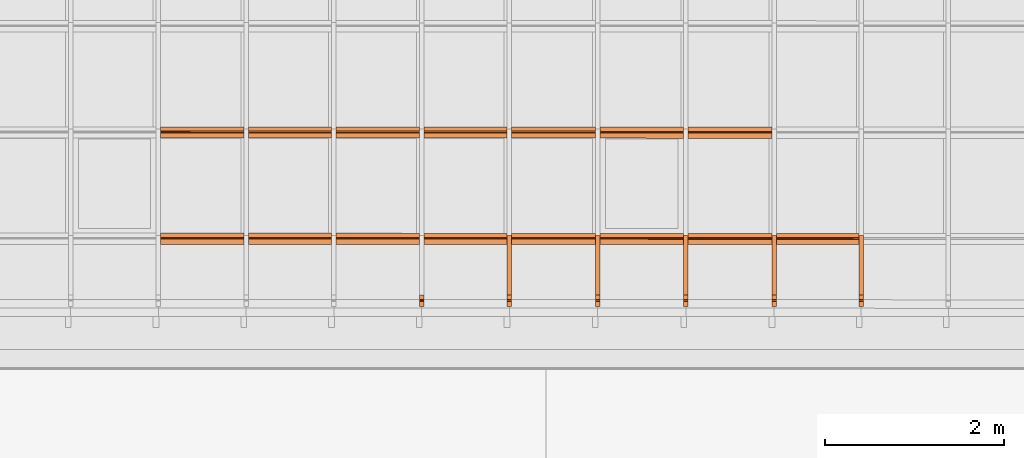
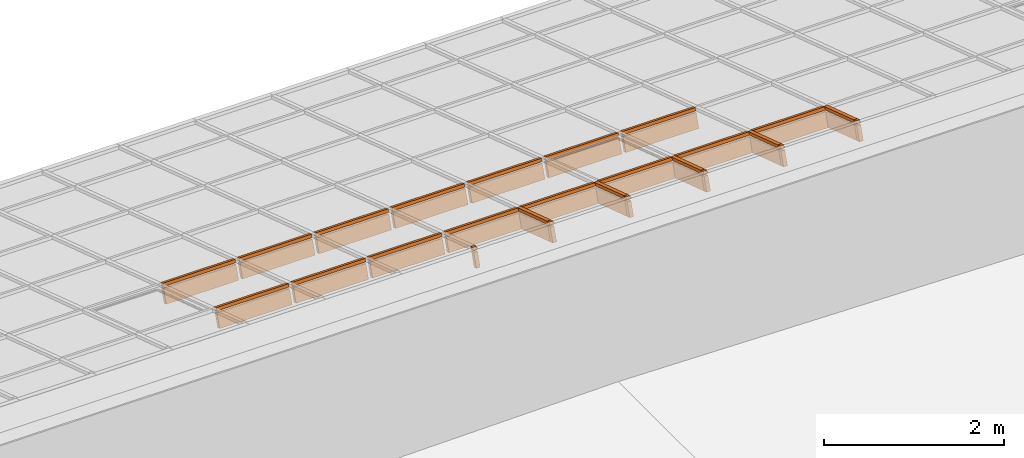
# One storey, part 43 of 47: 26 proxies, 1 element without a shape of its own.
"""IFC2X3 building model written with IfcOpenShell, lengths in millimetres."""

from ifc_helpers import new_model, entity, si_unit, converted_unit, derived_unit, money_unit, direction, frame, origin_with_axes, place, context, subcontext, project, spatial, polyline, outline, extrude, material, material_list, type_object, element, aggregate, save


model = new_model("IFC2X3")

# Units and contexts
model_context = context("Model", 3, precision=1e-05, world=origin_with_axes(), true_north=direction((0.0, 1.0)))
body_context = subcontext(model_context, "Body", "Model", "MODEL_VIEW")
ifc_project = project(units=[si_unit("LENGTHUNIT", "METRE", prefix="MILLI"), si_unit("AREAUNIT", "SQUARE_METRE"), si_unit("VOLUMEUNIT", "CUBIC_METRE"), converted_unit("PLANEANGLEUNIT", "DEGREE", entity("IfcPlaneAngleMeasure", 0.0174532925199), si_unit("PLANEANGLEUNIT", "RADIAN"), dimensions=[0, 0, 0, 0, 0, 0, 0]), si_unit("SOLIDANGLEUNIT", "STERADIAN"), money_unit("EUR"), converted_unit("TIMEUNIT", "Year", entity("IfcTimeMeasure", 31556926.0), si_unit("TIMEUNIT", "SECOND"), dimensions=[0, 0, 1, 0, 0, 0, 0]), si_unit("MASSUNIT", "GRAM", prefix="KILO"), si_unit("THERMODYNAMICTEMPERATUREUNIT", "DEGREE_CELSIUS"), si_unit("LUMINOUSINTENSITYUNIT", "LUMEN"), si_unit("ENERGYUNIT", "JOULE", prefix="MEGA"), derived_unit("THERMALCONDUCTANCEUNIT", [(si_unit("POWERUNIT", "WATT"), 1), (si_unit("LENGTHUNIT", "METRE"), -1), (si_unit("THERMODYNAMICTEMPERATUREUNIT", "KELVIN"), -1)]), derived_unit("SPECIFICHEATCAPACITYUNIT", [(si_unit("ENERGYUNIT", "JOULE"), 1), (si_unit("MASSUNIT", "GRAM", prefix="KILO"), -1), (si_unit("THERMODYNAMICTEMPERATUREUNIT", "KELVIN"), -1)]), derived_unit("MASSDENSITYUNIT", [(si_unit("MASSUNIT", "GRAM", prefix="KILO"), 1), (si_unit("VOLUMEUNIT", "CUBIC_METRE"), -1)])], contexts=[model_context])

# Site, building, storey
site_placement = place(None, origin_with_axes())
site = spatial("IfcSite", under=ifc_project, at=site_placement, Name="Site", CompositionType="ELEMENT")
building_placement = place(site_placement, origin_with_axes())
building = spatial("IfcBuilding", under=site, at=building_placement, Name="Building", CompositionType="ELEMENT")
storey_placement = place(building_placement, frame((0.0, 0.0, 6000.0), z_axis=(0.0, 0.0, 1.0), x_axis=(1.0, 0.0, 0.0)))
storey = spatial("IfcBuildingStorey", under=building, at=storey_placement, Name="KATUSEPLAAN", CompositionType="ELEMENT", Elevation=6000.0)

# Curtain wall, proxies
curtain_wall_type = type_object("IfcCurtainWallType", Name="KK-2", PredefinedType="NOTDEFINED")
curtain_wall_placement = place(storey_placement, frame((71638.1505463, 41358.6055567, 722.550081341), z_axis=(0.0, 0.0, 1.0), x_axis=(1.0, 0.0, 0.0)))
curtain_wall = element("IfcCurtainWall", 1, at=curtain_wall_placement, inside=storey, type_object=curtain_wall_type, Name="Talveaja klaaskatus")
ifc_material = material(Name="Alumiinium (1)")
ifc_material_list = material_list([ifc_material, ifc_material])
building_element_proxy_type_1 = type_object("IfcBuildingElementProxyType", Name="Frame-Trs-755", PredefinedType="NOTDEFINED")
proxy_1_placement = place(curtain_wall_placement, frame((489.999792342, 1664.05961209, 1432.55474361), z_axis=(0.999999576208, -0.000287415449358, -0.000874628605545), x_axis=(0.0, -0.950019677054, 0.312190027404)))
proxy_1 = element("IfcBuildingElementProxy", 2, at=proxy_1_placement, type_object=building_element_proxy_type_1, material=ifc_material_list, Name="Alumiinium (1);  Objekti nimi: Frame 22", context=body_context, shape_type="SweptSolid", body=[
    extrude(outline(polyline([(26.8723924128, 1.69544270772), (86.1885203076, 182.199173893), (38.6875384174, 197.808681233), (-20.6285894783, 17.3049500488), (26.8723924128, 1.69544270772)])), frame((0.0, 0.0, 25.0000000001), z_axis=(0.0, 0.0, 1.0), x_axis=(0.950019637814, 0.312190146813, 0.0)), (0.0, 0.0, 1.0), 930.0),
    extrude(outline(polyline([(-26.8723924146, -1.69544270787), (-39.3599982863, -39.6962282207), (8.1409836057, -55.305735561), (20.6285894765, -17.3049500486), (-26.8723924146, -1.69544270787)])), frame((0.0, 0.0, 24.9999999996), z_axis=(0.0, 0.0, 1.0), x_axis=(0.950019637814, 0.312190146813, 0.0)), (0.0, 0.0, 1.0), 930.000000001),
])
building_element_proxy_type_2 = type_object("IfcBuildingElementProxyType", Name="Frame-Trs-757", PredefinedType="NOTDEFINED")
proxy_2_placement = place(curtain_wall_placement, frame((2449.99896171, 1663.49627782, 1430.84047155), z_axis=(0.999999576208, -0.000287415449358, -0.000874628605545), x_axis=(0.0, -0.950019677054, 0.312190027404)))
proxy_2 = element("IfcBuildingElementProxy", 3, at=proxy_2_placement, type_object=building_element_proxy_type_2, material=ifc_material_list, Name="Alumiinium (1);  Objekti nimi: Frame 22", context=body_context, shape_type="SweptSolid", body=[
    extrude(outline(polyline([(26.8723924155, 1.69544270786), (86.1885203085, 182.199173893), (38.6875384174, 197.808681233), (-20.6285894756, 17.3049500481), (26.8723924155, 1.69544270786)])), frame((0.0, 0.0, 25.0), z_axis=(0.0, 0.0, 1.0), x_axis=(0.950019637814, 0.312190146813, 0.0)), (0.0, 0.0, 1.0), 930.0),
    extrude(outline(polyline([(-26.8723924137, -1.69544270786), (-39.3599982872, -39.6962282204), (8.14098360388, -55.3057355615), (20.6285894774, -17.3049500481), (-26.8723924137, -1.69544270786)])), frame((0.0, 0.0, 24.9999999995), z_axis=(0.0, 0.0, 1.0), x_axis=(0.950019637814, 0.312190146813, 0.0)), (0.0, 0.0, 1.0), 930.000000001),
])
building_element_proxy_type_3 = type_object("IfcBuildingElementProxyType", Name="Frame-Trs-759", PredefinedType="NOTDEFINED")
proxy_3_placement = place(curtain_wall_placement, frame((4409.99813108, 1662.93294355, 1429.12619948), z_axis=(0.999999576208, -0.000287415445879, -0.000874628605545), x_axis=(0.0, -0.950019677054, 0.312190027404)))
proxy_3 = element("IfcBuildingElementProxy", 4, at=proxy_3_placement, type_object=building_element_proxy_type_3, material=ifc_material_list, Name="Alumiinium (1);  Objekti nimi: Frame 22", context=body_context, shape_type="SweptSolid", body=[
    extrude(outline(polyline([(26.8723924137, 1.695442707), (86.1885203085, 182.199173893), (38.6875384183, 197.808681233), (-20.6285894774, 17.3049500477), (26.8723924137, 1.695442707)])), frame((0.0, 0.0, 24.9999999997), z_axis=(0.0, 0.0, 1.0), x_axis=(0.950019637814, 0.312190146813, 0.0)), (0.0, 0.0, 1.0), 936.0),
    extrude(outline(polyline([(-26.8723924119, -1.69544270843), (-39.3599982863, -39.6962282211), (8.14098360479, -55.3057355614), (20.6285894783, -17.3049500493), (-26.8723924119, -1.69544270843)])), frame((0.0, 0.0, 24.9999999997), z_axis=(0.0, 0.0, 1.0), x_axis=(0.950019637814, 0.312190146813, 0.0)), (0.0, 0.0, 1.0), 936.0),
])
building_element_proxy_type_4 = type_object("IfcBuildingElementProxyType", Name="Frame-Trs-761", PredefinedType="NOTDEFINED")
proxy_4_placement = place(curtain_wall_placement, frame((6381.99729536, 1662.36616029, 1427.40143187), z_axis=(0.999999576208, -0.000287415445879, -0.000874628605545), x_axis=(0.0, -0.950019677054, 0.312190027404)))
proxy_4 = element("IfcBuildingElementProxy", 5, at=proxy_4_placement, type_object=building_element_proxy_type_4, material=ifc_material_list, Name="Alumiinium (1);  Objekti nimi: Frame 22", context=body_context, shape_type="SweptSolid", body=[
    extrude(outline(polyline([(26.8723924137, 1.69544270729), (86.1885203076, 182.199173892), (38.6875384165, 197.808681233), (-20.6285894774, 17.3049500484), (26.8723924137, 1.69544270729)])), frame((0.0, 0.0, 25.0), z_axis=(0.0, 0.0, 1.0), x_axis=(0.950019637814, 0.312190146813, 0.0)), (0.0, 0.0, 1.0), 936.0),
    extrude(outline(polyline([(-26.8723924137, -1.69544270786), (-39.3599982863, -39.6962282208), (8.14098360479, -55.3057355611), (20.6285894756, -17.3049500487), (-26.8723924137, -1.69544270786)])), frame((0.0, 0.0, 25.0000000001), z_axis=(0.0, 0.0, 1.0), x_axis=(0.950019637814, 0.312190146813, 0.0)), (0.0, 0.0, 1.0), 936.0),
])
building_element_proxy_type_5 = type_object("IfcBuildingElementProxyType", Name="Frame-Mll-881", PredefinedType="NOTDEFINED")
proxy_5_placement = place(curtain_wall_placement, frame((5395.99771322, 475.1249556, 1818.50134993), z_axis=(0.0, -0.950019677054, 0.312190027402), x_axis=(-0.999999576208, 0.000287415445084, 0.000874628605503)))
proxy_5 = element("IfcBuildingElementProxy", 6, at=proxy_5_placement, type_object=building_element_proxy_type_5, material=ifc_material_list, Name="Alumiinium (1);  Objekti nimi: Frame 22", context=body_context, shape_type="SweptSolid", body=[
    extrude(outline(polyline([(25.0091958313, 9.9769796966), (25.1841179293, 199.976899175), (-24.8158608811, 200.022931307), (-24.990782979, 10.0230118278), (25.0091958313, 9.9769796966)])), frame((0.0, 4.54747350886e-10, -9.09494701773e-10), z_axis=(0.0, 0.0, 1.0), x_axis=(0.999999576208, 0.000920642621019, 0.0)), (0.0, 0.0, 1.0), 700.000000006),
    extrude(outline(polyline([(-25.0091958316, -9.97697969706), (-25.0460215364, -49.9769627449), (24.9539572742, -50.0229948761), (24.990782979, -10.0230118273), (-25.0091958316, -9.97697969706)])), frame((0.0, 4.54747350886e-10, -9.09494701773e-10), z_axis=(0.0, 0.0, 1.0), x_axis=(0.999999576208, 0.000920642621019, 0.0)), (0.0, 0.0, 1.0), 700.000000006),
])
building_element_proxy_type_6 = type_object("IfcBuildingElementProxyType", Name="Frame-Trs-523", PredefinedType="NOTDEFINED")
proxy_6_placement = place(curtain_wall_placement, frame((489.999792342, 476.535015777, 1822.79227787), z_axis=(0.999999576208, -0.000287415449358, -0.000874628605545), x_axis=(0.0, -0.950019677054, 0.312190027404)))
proxy_6 = element("IfcBuildingElementProxy", 7, at=proxy_6_placement, type_object=building_element_proxy_type_6, material=ifc_material_list, Name="Alumiinium (1);  Objekti nimi: Frame 22", context=body_context, shape_type="SweptSolid", body=[
    extrude(outline(polyline([(26.8723924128, 1.69544270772), (86.1885203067, 182.199173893), (38.6875384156, 197.808681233), (-20.6285894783, 17.3049500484), (26.8723924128, 1.69544270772)])), frame((0.0, 0.0, 25.0000000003), z_axis=(0.0, 0.0, 1.0), x_axis=(0.950019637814, 0.312190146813, 0.0)), (0.0, 0.0, 1.0), 930.0),
    extrude(outline(polyline([(-26.8723924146, -1.69544270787), (-39.3599982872, -39.6962282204), (8.14098360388, -55.3057355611), (20.6285894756, -17.3049500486), (-26.8723924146, -1.69544270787)])), frame((0.0, 0.0, 24.9999999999), z_axis=(0.0, 0.0, 1.0), x_axis=(0.950019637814, 0.312190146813, 0.0)), (0.0, 0.0, 1.0), 930.000000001),
])
building_element_proxy_type_7 = type_object("IfcBuildingElementProxyType", Name="Frame-Trs-525", PredefinedType="NOTDEFINED")
proxy_7_placement = place(curtain_wall_placement, frame((2449.99896171, 475.971681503, 1821.0780058), z_axis=(0.999999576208, -0.000287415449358, -0.000874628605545), x_axis=(0.0, -0.950019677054, 0.312190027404)))
proxy_7 = element("IfcBuildingElementProxy", 8, at=proxy_7_placement, type_object=building_element_proxy_type_7, material=ifc_material_list, Name="Alumiinium (1);  Objekti nimi: Frame 22", context=body_context, shape_type="SweptSolid", body=[
    extrude(outline(polyline([(26.8723924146, 1.69544270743), (86.1885203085, 182.199173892), (38.6875384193, 197.808681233), (-20.6285894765, 17.3049500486), (26.8723924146, 1.69544270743)])), frame((9.09494701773e-10, 0.0, 24.9999999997), z_axis=(0.0, 0.0, 1.0), x_axis=(0.950019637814, 0.312190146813, 0.0)), (0.0, 0.0, 1.0), 930.0),
    extrude(outline(polyline([(-26.8723924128, -1.69544270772), (-39.3599982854, -39.696228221), (8.1409836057, -55.3057355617), (20.6285894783, -17.3049500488), (-26.8723924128, -1.69544270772)])), frame((9.09494701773e-10, 0.0, 24.9999999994), z_axis=(0.0, 0.0, 1.0), x_axis=(0.950019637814, 0.312190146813, 0.0)), (0.0, 0.0, 1.0), 930.000000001),
])
building_element_proxy_type_8 = type_object("IfcBuildingElementProxyType", Name="Frame-Trs-527", PredefinedType="NOTDEFINED")
proxy_8_placement = place(curtain_wall_placement, frame((4409.99813108, 475.40834723, 1819.36373374), z_axis=(0.999999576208, -0.000287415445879, -0.000874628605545), x_axis=(0.0, -0.950019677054, 0.312190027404)))
proxy_8 = element("IfcBuildingElementProxy", 9, at=proxy_8_placement, type_object=building_element_proxy_type_8, material=ifc_material_list, Name="Alumiinium (1);  Objekti nimi: Frame 22", context=body_context, shape_type="SweptSolid", body=[
    extrude(outline(polyline([(26.8723924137, 1.69544270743), (86.1885203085, 182.199173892), (38.6875384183, 197.808681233), (-20.6285894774, 17.3049500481), (26.8723924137, 1.69544270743)])), frame((0.0, 0.0, 24.9999999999), z_axis=(0.0, 0.0, 1.0), x_axis=(0.950019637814, 0.312190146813, 0.0)), (0.0, 0.0, 1.0), 936.0),
    extrude(outline(polyline([(-26.8723924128, -1.69544270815), (-39.3599982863, -39.6962282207), (8.14098360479, -55.3057355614), (20.6285894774, -17.3049500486), (-26.8723924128, -1.69544270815)])), frame((0.0, 0.0, 25.0), z_axis=(0.0, 0.0, 1.0), x_axis=(0.950019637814, 0.312190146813, 0.0)), (0.0, 0.0, 1.0), 936.0),
])
building_element_proxy_type_9 = type_object("IfcBuildingElementProxyType", Name="Frame-Trs-529", PredefinedType="NOTDEFINED")
proxy_9_placement = place(curtain_wall_placement, frame((6381.99729536, 474.841563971, 1817.63896613), z_axis=(0.999999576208, -0.000287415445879, -0.000874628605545), x_axis=(0.0, -0.950019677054, 0.312190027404)))
proxy_9 = element("IfcBuildingElementProxy", 10, at=proxy_9_placement, type_object=building_element_proxy_type_9, material=ifc_material_list, Name="Alumiinium (1);  Objekti nimi: Frame 22", context=body_context, shape_type="SweptSolid", body=[
    extrude(outline(polyline([(26.8723924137, 1.69544270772), (86.1885203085, 182.199173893), (38.6875384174, 197.808681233), (-20.6285894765, 17.3049500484), (26.8723924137, 1.69544270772)])), frame((9.09494701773e-10, 0.0, 25.0), z_axis=(0.0, 0.0, 1.0), x_axis=(0.950019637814, 0.312190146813, 0.0)), (0.0, 0.0, 1.0), 936.000000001),
    extrude(outline(polyline([(-26.8723924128, -1.69544270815), (-39.3599982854, -39.6962282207), (8.1409836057, -55.3057355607), (20.6285894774, -17.3049500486), (-26.8723924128, -1.69544270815)])), frame((9.09494701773e-10, 0.0, 25.0000000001), z_axis=(0.0, 0.0, 1.0), x_axis=(0.950019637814, 0.312190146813, 0.0)), (0.0, 0.0, 1.0), 936.000000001),
])
building_element_proxy_type_10 = type_object("IfcBuildingElementProxyType", Name="Frame-Mll-883", PredefinedType="NOTDEFINED")
proxy_10_placement = place(curtain_wall_placement, frame((7367.9968775, 474.558172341, 1816.77658232), z_axis=(0.0, -0.950019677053, 0.312190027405), x_axis=(-0.999999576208, 0.000287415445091, 0.000874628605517)))
proxy_10 = element("IfcBuildingElementProxy", 11, at=proxy_10_placement, type_object=building_element_proxy_type_10, material=ifc_material_list, Name="Alumiinium (1);  Objekti nimi: Frame 22", context=body_context, shape_type="SweptSolid", body=[
    extrude(outline(polyline([(25.0091958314, 9.9769796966), (25.1841179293, 199.976899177), (-24.8158608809, 200.022931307), (-24.990782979, 10.0230118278), (25.0091958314, 9.9769796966)])), frame((0.0, 0.0, -1.81898940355e-09), z_axis=(0.0, 0.0, 1.0), x_axis=(0.999999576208, 0.000920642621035, 0.0)), (0.0, 0.0, 1.0), 700.000000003),
    extrude(outline(polyline([(-25.0091958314, -9.9769796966), (-25.0460215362, -49.9769627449), (24.9539572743, -50.0229948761), (24.990782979, -10.0230118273), (-25.0091958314, -9.9769796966)])), frame((0.0, 0.0, -1.81898940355e-09), z_axis=(0.0, 0.0, 1.0), x_axis=(0.999999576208, 0.000920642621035, 0.0)), (0.0, 0.0, 1.0), 700.000000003),
])
building_element_proxy_type_11 = type_object("IfcBuildingElementProxyType", Name="Frame-Trs-756", PredefinedType="NOTDEFINED")
proxy_11_placement = place(curtain_wall_placement, frame((1469.99937703, 1663.77794495, 1431.69760758), z_axis=(0.999999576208, -0.000287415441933, -0.000874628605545), x_axis=(0.0, -0.950019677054, 0.312190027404)))
proxy_11 = element("IfcBuildingElementProxy", 12, at=proxy_11_placement, type_object=building_element_proxy_type_11, material=ifc_material_list, Name="Alumiinium (1);  Objekti nimi: Frame 22", context=body_context, shape_type="SweptSolid", body=[
    extrude(outline(polyline([(26.8723924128, 1.69544270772), (86.1885203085, 182.199173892), (38.6875384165, 197.808681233), (-20.6285894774, 17.3049500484), (26.8723924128, 1.69544270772)])), frame((0.0, 0.0, 24.9999999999), z_axis=(0.0, 0.0, 1.0), x_axis=(0.950019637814, 0.312190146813, 0.0)), (0.0, 0.0, 1.0), 930.0),
    extrude(outline(polyline([(-26.8723924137, -1.69544270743), (-39.3599982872, -39.6962282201), (8.14098360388, -55.3057355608), (20.6285894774, -17.3049500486), (-26.8723924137, -1.69544270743)])), frame((0.0, 0.0, 24.9999999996), z_axis=(0.0, 0.0, 1.0), x_axis=(0.950019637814, 0.312190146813, 0.0)), (0.0, 0.0, 1.0), 930.000000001),
])
building_element_proxy_type_12 = type_object("IfcBuildingElementProxyType", Name="Frame-Trs-758", PredefinedType="NOTDEFINED")
proxy_12_placement = place(curtain_wall_placement, frame((3429.9985464, 1663.21461068, 1429.98333551), z_axis=(0.999999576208, -0.000287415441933, -0.000874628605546), x_axis=(0.0, -0.950019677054, 0.312190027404)))
proxy_12 = element("IfcBuildingElementProxy", 13, at=proxy_12_placement, type_object=building_element_proxy_type_12, material=ifc_material_list, Name="Alumiinium (1);  Objekti nimi: Frame 22", context=body_context, shape_type="SweptSolid", body=[
    extrude(outline(polyline([(26.8723924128, 1.69544270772), (86.1885203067, 182.199173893), (38.6875384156, 197.808681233), (-20.6285894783, 17.3049500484), (26.8723924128, 1.69544270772)])), frame((9.09494701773e-10, 0.0, 25.0000000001), z_axis=(0.0, 0.0, 1.0), x_axis=(0.950019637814, 0.312190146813, 0.0)), (0.0, 0.0, 1.0), 930.0),
    extrude(outline(polyline([(-26.8723924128, -1.69544270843), (-39.3599982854, -39.6962282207), (8.1409836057, -55.3057355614), (20.6285894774, -17.3049500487), (-26.8723924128, -1.69544270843)])), frame((9.09494701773e-10, 0.0, 24.9999999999), z_axis=(0.0, 0.0, 1.0), x_axis=(0.950019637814, 0.312190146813, 0.0)), (0.0, 0.0, 1.0), 930.000000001),
])
building_element_proxy_type_13 = type_object("IfcBuildingElementProxyType", Name="Frame-Trs-760", PredefinedType="NOTDEFINED")
proxy_13_placement = place(curtain_wall_placement, frame((5395.99771322, 1662.64955192, 1428.26381568), z_axis=(0.999999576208, -0.000287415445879, -0.000874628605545), x_axis=(0.0, -0.950019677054, 0.312190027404)))
proxy_13 = element("IfcBuildingElementProxy", 14, at=proxy_13_placement, type_object=building_element_proxy_type_13, material=ifc_material_list, Name="Alumiinium (1);  Objekti nimi: Frame 22", context=body_context, shape_type="SweptSolid", body=[
    extrude(outline(polyline([(26.8723924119, 1.695442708), (86.1885203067, 182.199173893), (38.6875384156, 197.808681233), (-20.6285894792, 17.3049500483), (26.8723924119, 1.695442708)])), frame((0.0, 0.0, 24.9999999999), z_axis=(0.0, 0.0, 1.0), x_axis=(0.950019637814, 0.312190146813, 0.0)), (0.0, 0.0, 1.0), 936.0),
    extrude(outline(polyline([(-26.8723924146, -1.69544270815), (-39.3599982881, -39.6962282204), (8.14098360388, -55.3057355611), (20.6285894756, -17.3049500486), (-26.8723924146, -1.69544270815)])), frame((0.0, 0.0, 24.9999999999), z_axis=(0.0, 0.0, 1.0), x_axis=(0.950019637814, 0.312190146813, 0.0)), (0.0, 0.0, 1.0), 936.0),
])
building_element_proxy_type_14 = type_object("IfcBuildingElementProxyType", Name="Frame-Mll-884", PredefinedType="NOTDEFINED")
proxy_14_placement = place(curtain_wall_placement, frame((8340.99646516, 474.278517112, 1815.92556869), z_axis=(0.0, -0.950019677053, 0.312190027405), x_axis=(-0.999999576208, 0.000287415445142, 0.000874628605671)))
proxy_14 = element("IfcBuildingElementProxy", 15, at=proxy_14_placement, type_object=building_element_proxy_type_14, material=ifc_material_list, Name="Alumiinium (1);  Objekti nimi: Frame 22", context=body_context, shape_type="SweptSolid", body=[
    extrude(outline(polyline([(25.0091958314, 9.9769796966), (25.1841179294, 199.976899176), (-24.8158608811, 200.022931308), (-24.9907829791, 10.0230118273), (25.0091958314, 9.9769796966)])), frame((0.0, 0.0, 0.0), z_axis=(0.0, 0.0, 1.0), x_axis=(0.999999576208, 0.000920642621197, 0.0)), (0.0, 0.0, 1.0), 700.000000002),
    extrude(outline(polyline([(-25.0091958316, -9.9769796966), (-25.0460215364, -49.9769627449), (24.953957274, -50.0229948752), (24.9907829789, -10.0230118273), (-25.0091958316, -9.9769796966)])), frame((0.0, 0.0, -9.09494701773e-10), z_axis=(0.0, 0.0, 1.0), x_axis=(0.999999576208, 0.000920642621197, 0.0)), (0.0, 0.0, 1.0), 700.000000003),
])
building_element_proxy_type_15 = type_object("IfcBuildingElementProxyType", Name="Frame-Mll-880", PredefinedType="NOTDEFINED")
proxy_15_placement = place(curtain_wall_placement, frame((4409.99813108, 475.40834723, 1819.36373374), z_axis=(0.0, -0.950019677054, 0.312190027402), x_axis=(-0.999999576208, 0.000287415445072, 0.000874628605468)))
proxy_15 = element("IfcBuildingElementProxy", 16, at=proxy_15_placement, type_object=building_element_proxy_type_15, material=ifc_material_list, Name="Alumiinium (1);  Objekti nimi: Frame 22", context=body_context, shape_type="SweptSolid", body=[
    extrude(outline(polyline([(25.0091958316, 9.97697969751), (25.1841179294, 199.976899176), (-24.8158608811, 200.022931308), (-24.9907829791, 10.0230118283), (25.0091958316, 9.97697969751)])), frame((0.0, 4.54747350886e-10, -1.81898940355e-09), z_axis=(0.0, 0.0, 1.0), x_axis=(0.999999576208, 0.000920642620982, 0.0)), (0.0, 0.0, 1.0), 700.000000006),
    extrude(outline(polyline([(-25.0091958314, -9.97697969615), (-25.0460215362, -49.976962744), (24.9539572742, -50.0229948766), (24.9907829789, -10.0230118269), (-25.0091958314, -9.97697969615)])), frame((0.0, 4.54747350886e-10, -9.09494701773e-10), z_axis=(0.0, 0.0, 1.0), x_axis=(0.999999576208, 0.000920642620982, 0.0)), (0.0, 0.0, 1.0), 700.000000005),
])
building_element_proxy_type_16 = type_object("IfcBuildingElementProxyType", Name="Frame-Trs-524", PredefinedType="NOTDEFINED")
proxy_16_placement = place(curtain_wall_placement, frame((1469.99937703, 476.253348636, 1821.93514184), z_axis=(0.999999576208, -0.000287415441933, -0.000874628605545), x_axis=(0.0, -0.950019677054, 0.312190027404)))
proxy_16 = element("IfcBuildingElementProxy", 17, at=proxy_16_placement, type_object=building_element_proxy_type_16, material=ifc_material_list, Name="Alumiinium (1);  Objekti nimi: Frame 22", context=body_context, shape_type="SweptSolid", body=[
    extrude(outline(polyline([(26.8723924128, 1.69544270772), (86.1885203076, 182.199173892), (38.6875384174, 197.808681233), (-20.6285894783, 17.304950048), (26.8723924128, 1.69544270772)])), frame((9.09494701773e-10, 0.0, 25.0), z_axis=(0.0, 0.0, 1.0), x_axis=(0.950019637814, 0.312190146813, 0.0)), (0.0, 0.0, 1.0), 930.0),
    extrude(outline(polyline([(-26.8723924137, -1.69544270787), (-39.3599982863, -39.6962282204), (8.14098360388, -55.3057355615), (20.6285894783, -17.3049500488), (-26.8723924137, -1.69544270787)])), frame((9.09494701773e-10, 0.0, 24.9999999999), z_axis=(0.0, 0.0, 1.0), x_axis=(0.950019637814, 0.312190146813, 0.0)), (0.0, 0.0, 1.0), 930.0),
])
building_element_proxy_type_17 = type_object("IfcBuildingElementProxyType", Name="Frame-Trs-526", PredefinedType="NOTDEFINED")
proxy_17_placement = place(curtain_wall_placement, frame((3429.9985464, 475.690014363, 1820.22086977), z_axis=(0.999999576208, -0.000287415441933, -0.000874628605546), x_axis=(0.0, -0.950019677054, 0.312190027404)))
proxy_17 = element("IfcBuildingElementProxy", 18, at=proxy_17_placement, type_object=building_element_proxy_type_17, material=ifc_material_list, Name="Alumiinium (1);  Objekti nimi: Frame 22", context=body_context, shape_type="SweptSolid", body=[
    extrude(outline(polyline([(26.8723924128, 1.69544270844), (86.1885203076, 182.199173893), (38.6875384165, 197.808681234), (-20.6285894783, 17.3049500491), (26.8723924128, 1.69544270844)])), frame((-9.09494701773e-10, 0.0, 25.0000000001), z_axis=(0.0, 0.0, 1.0), x_axis=(0.950019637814, 0.312190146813, 0.0)), (0.0, 0.0, 1.0), 930.0),
    extrude(outline(polyline([(-26.8723924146, -1.69544270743), (-39.3599982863, -39.69622822), (8.14098360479, -55.3057355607), (20.6285894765, -17.3049500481), (-26.8723924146, -1.69544270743)])), frame((-9.09494701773e-10, 0.0, 25.0), z_axis=(0.0, 0.0, 1.0), x_axis=(0.950019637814, 0.312190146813, 0.0)), (0.0, 0.0, 1.0), 930.000000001),
])
building_element_proxy_type_18 = type_object("IfcBuildingElementProxyType", Name="Frame-Mll-004", PredefinedType="NOTDEFINED")
proxy_18_placement = place(curtain_wall_placement, frame((4409.99813108, -189.605426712, 2037.89675292), z_axis=(0.0, -0.950019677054, 0.312190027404), x_axis=(-0.999999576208, 0.000287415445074, 0.000874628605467)))
proxy_18 = element("IfcBuildingElementProxy", 19, at=proxy_18_placement, type_object=building_element_proxy_type_18, material=ifc_material_list, Name="Alumiinium (1);  Objekti nimi: Frame 22", context=body_context, shape_type="SweptSolid", body=[
    extrude(outline(polyline([(25.0091958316, 9.97697969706), (25.1841179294, 199.976899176), (-24.8158608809, 200.022931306), (-24.990782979, 10.0230118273), (25.0091958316, 9.97697969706)])), frame((0.0, -4.54747350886e-10, -9.09494701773e-10), z_axis=(0.0, 0.0, 1.0), x_axis=(0.999999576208, 0.000920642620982, 0.0)), (0.0, 0.0, 1.0), 55.2609778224),
    extrude(outline(polyline([(-25.0091958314, -9.97697969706), (-25.0460215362, -49.9769627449), (24.9539572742, -50.0229948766), (24.9907829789, -10.0230118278), (-25.0091958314, -9.97697969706)])), frame((0.0, -4.54747350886e-10, -9.09494701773e-10), z_axis=(0.0, 0.0, 1.0), x_axis=(0.999999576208, 0.000920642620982, 0.0)), (0.0, 0.0, 1.0), 55.2609778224),
])
building_element_proxy_type_19 = type_object("IfcBuildingElementProxyType", Name="Frame-Trs-528", PredefinedType="NOTDEFINED")
proxy_19_placement = place(curtain_wall_placement, frame((5395.99771322, 475.1249556, 1818.50134993), z_axis=(0.999999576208, -0.000287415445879, -0.000874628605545), x_axis=(0.0, -0.950019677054, 0.312190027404)))
proxy_19 = element("IfcBuildingElementProxy", 20, at=proxy_19_placement, type_object=building_element_proxy_type_19, material=ifc_material_list, Name="Alumiinium (1);  Objekti nimi: Frame 22", context=body_context, shape_type="SweptSolid", body=[
    extrude(outline(polyline([(26.8723924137, 1.69544270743), (86.1885203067, 182.199173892), (38.6875384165, 197.808681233), (-20.6285894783, 17.3049500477), (26.8723924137, 1.69544270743)])), frame((9.09494701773e-10, 0.0, 25.0000000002), z_axis=(0.0, 0.0, 1.0), x_axis=(0.950019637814, 0.312190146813, 0.0)), (0.0, 0.0, 1.0), 936.0),
    extrude(outline(polyline([(-26.8723924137, -1.69544270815), (-39.3599982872, -39.6962282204), (8.14098360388, -55.3057355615), (20.6285894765, -17.304950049), (-26.8723924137, -1.69544270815)])), frame((9.09494701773e-10, 0.0, 25.0000000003), z_axis=(0.0, 0.0, 1.0), x_axis=(0.950019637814, 0.312190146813, 0.0)), (0.0, 0.0, 1.0), 936.0),
])
building_element_proxy_type_20 = type_object("IfcBuildingElementProxyType", Name="Frame-Mll-003", PredefinedType="NOTDEFINED")
proxy_20_placement = place(curtain_wall_placement, frame((3429.9985464, -189.323759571, 2038.75388895), z_axis=(0.0, -0.950019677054, 0.312190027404), x_axis=(-0.999999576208, 0.000287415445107, 0.000874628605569)))
proxy_20 = element("IfcBuildingElementProxy", 21, at=proxy_20_placement, type_object=building_element_proxy_type_20, material=ifc_material_list, Name="Alumiinium (1);  Objekti nimi: Frame 22", context=body_context, shape_type="SweptSolid", body=[
    extrude(outline(polyline([(25.0091958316, 9.97697969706), (25.1841179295, 199.976899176), (-24.8158608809, 200.022931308), (-24.990782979, 10.0230118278), (25.0091958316, 9.97697969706)])), frame((0.0, 4.54747350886e-10, -1.81898940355e-09), z_axis=(0.0, 0.0, 1.0), x_axis=(0.999999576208, 0.00092064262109, 0.0)), (0.0, 0.0, 1.0), 55.2609778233),
    extrude(outline(polyline([(-25.0091958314, -9.97697969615), (-25.0460215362, -49.9769627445), (24.9539572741, -50.0229948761), (24.9907829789, -10.0230118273), (-25.0091958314, -9.97697969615)])), frame((0.0, 4.54747350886e-10, -1.81898940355e-09), z_axis=(0.0, 0.0, 1.0), x_axis=(0.999999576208, 0.00092064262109, 0.0)), (0.0, 0.0, 1.0), 55.2609778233),
])
building_element_proxy_type_21 = type_object("IfcBuildingElementProxyType", Name="Frame-Trs-530", PredefinedType="NOTDEFINED")
proxy_21_placement = place(curtain_wall_placement, frame((7367.9968775, 474.558172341, 1816.77658232), z_axis=(0.999999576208, -0.000287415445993, -0.000874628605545), x_axis=(0.0, -0.950019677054, 0.312190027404)))
proxy_21 = element("IfcBuildingElementProxy", 22, at=proxy_21_placement, type_object=building_element_proxy_type_21, material=ifc_material_list, Name="Alumiinium (1);  Objekti nimi: Frame 22", context=body_context, shape_type="SweptSolid", body=[
    extrude(outline(polyline([(26.8723924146, 1.69544270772), (86.1885203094, 182.199173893), (38.6875384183, 197.808681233), (-20.6285894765, 17.3049500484), (26.8723924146, 1.69544270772)])), frame((0.0, 4.54747350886e-10, 24.9999999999), z_axis=(0.0, 0.0, 1.0), x_axis=(0.950019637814, 0.312190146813, 0.0)), (0.0, 0.0, 1.0), 923.0),
    extrude(outline(polyline([(-26.8723924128, -1.69544270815), (-39.3599982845, -39.6962282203), (8.1409836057, -55.3057355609), (20.6285894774, -17.3049500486), (-26.8723924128, -1.69544270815)])), frame((0.0, 4.54747350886e-10, 25.0), z_axis=(0.0, 0.0, 1.0), x_axis=(0.950019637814, 0.312190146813, 0.0)), (0.0, 0.0, 1.0), 923.0),
])
building_element_proxy_type_22 = type_object("IfcBuildingElementProxyType", Name="Frame-Mll-882", PredefinedType="NOTDEFINED")
proxy_22_placement = place(curtain_wall_placement, frame((6381.99729536, 474.841563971, 1817.63896613), z_axis=(0.0, -0.950019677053, 0.312190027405), x_axis=(-0.999999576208, 0.000287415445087, 0.000874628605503)))
proxy_22 = element("IfcBuildingElementProxy", 23, at=proxy_22_placement, type_object=building_element_proxy_type_22, material=ifc_material_list, Name="Alumiinium (1);  Objekti nimi: Frame 22", context=body_context, shape_type="SweptSolid", body=[
    extrude(outline(polyline([(25.0091958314, 9.97697969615), (25.1841179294, 199.976899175), (-24.8158608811, 200.022931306), (-24.990782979, 10.0230118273), (25.0091958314, 9.97697969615)])), frame((0.0, 0.0, 0.0), z_axis=(0.0, 0.0, 1.0), x_axis=(0.999999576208, 0.00092064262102, 0.0)), (0.0, 0.0, 1.0), 700.000000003),
    extrude(outline(polyline([(-25.0091958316, -9.97697969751), (-25.0460215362, -49.9769627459), (24.9539572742, -50.0229948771), (24.990782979, -10.0230118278), (-25.0091958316, -9.97697969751)])), frame((0.0, 0.0, 0.0), z_axis=(0.0, 0.0, 1.0), x_axis=(0.999999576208, 0.00092064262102, 0.0)), (0.0, 0.0, 1.0), 700.000000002),
])
building_element_proxy_type_23 = type_object("IfcBuildingElementProxyType", Name="Frame-Mll-005", PredefinedType="NOTDEFINED")
proxy_23_placement = place(curtain_wall_placement, frame((5395.99771322, -189.888818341, 2037.03436911), z_axis=(0.0, -0.950019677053, 0.312190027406), x_axis=(-0.999999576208, 0.000287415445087, 0.000874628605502)))
proxy_23 = element("IfcBuildingElementProxy", 24, at=proxy_23_placement, type_object=building_element_proxy_type_23, material=ifc_material_list, Name="Alumiinium (1);  Objekti nimi: Frame 22", context=body_context, shape_type="SweptSolid", body=[
    extrude(outline(polyline([(25.0091958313, 9.97697969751), (25.1841179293, 199.976899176), (-24.8158608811, 200.022931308), (-24.990782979, 10.0230118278), (25.0091958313, 9.97697969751)])), frame((0.0, 4.54747350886e-10, -1.81898940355e-09), z_axis=(0.0, 0.0, 1.0), x_axis=(0.999999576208, 0.00092064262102, 0.0)), (0.0, 0.0, 1.0), 55.2609778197),
    extrude(outline(polyline([(-25.0091958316, -9.97697969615), (-25.0460215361, -49.976962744), (24.9539572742, -50.0229948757), (24.990782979, -10.0230118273), (-25.0091958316, -9.97697969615)])), frame((0.0, 4.54747350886e-10, -1.81898940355e-09), z_axis=(0.0, 0.0, 1.0), x_axis=(0.999999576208, 0.00092064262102, 0.0)), (0.0, 0.0, 1.0), 55.2609778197),
])
building_element_proxy_type_24 = type_object("IfcBuildingElementProxyType", Name="Frame-Mll-006", PredefinedType="NOTDEFINED")
proxy_24_placement = place(curtain_wall_placement, frame((6381.99729536, -190.172209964, 2036.17198531), z_axis=(0.0, -0.950019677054, 0.312190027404), x_axis=(-0.999999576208, 0.000287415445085, 0.000874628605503)))
proxy_24 = element("IfcBuildingElementProxy", 25, at=proxy_24_placement, type_object=building_element_proxy_type_24, material=ifc_material_list, Name="Alumiinium (1);  Objekti nimi: Frame 22", context=body_context, shape_type="SweptSolid", body=[
    extrude(outline(polyline([(25.0091958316, 9.9769796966), (25.1841179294, 199.976899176), (-24.8158608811, 200.022931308), (-24.990782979, 10.0230118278), (25.0091958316, 9.9769796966)])), frame((0.0, 0.0, -1.81898940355e-09), z_axis=(0.0, 0.0, 1.0), x_axis=(0.999999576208, 0.000920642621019, 0.0)), (0.0, 0.0, 1.0), 55.2609778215),
    extrude(outline(polyline([(-25.0091958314, -9.97697969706), (-25.0460215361, -49.9769627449), (24.9539572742, -50.0229948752), (24.990782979, -10.0230118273), (-25.0091958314, -9.97697969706)])), frame((0.0, 0.0, -1.81898940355e-09), z_axis=(0.0, 0.0, 1.0), x_axis=(0.999999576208, 0.000920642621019, 0.0)), (0.0, 0.0, 1.0), 55.2609778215),
])
building_element_proxy_type_25 = type_object("IfcBuildingElementProxyType", Name="Frame-Mll-007", PredefinedType="NOTDEFINED")
proxy_25_placement = place(curtain_wall_placement, frame((7367.9968775, -190.455601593, 2035.3096015), z_axis=(0.0, -0.950019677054, 0.312190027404), x_axis=(-0.999999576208, 0.000287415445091, 0.000874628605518)))
proxy_25 = element("IfcBuildingElementProxy", 26, at=proxy_25_placement, type_object=building_element_proxy_type_25, material=ifc_material_list, Name="Alumiinium (1);  Objekti nimi: Frame 22", context=body_context, shape_type="SweptSolid", body=[
    extrude(outline(polyline([(25.0091958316, 9.97697969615), (25.1841179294, 199.976899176), (-24.8158608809, 200.022931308), (-24.990782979, 10.0230118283), (25.0091958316, 9.97697969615)])), frame((0.0, 4.54747350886e-10, -1.81898940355e-09), z_axis=(0.0, 0.0, 1.0), x_axis=(0.999999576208, 0.000920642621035, 0.0)), (0.0, 0.0, 1.0), 55.2609778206),
    extrude(outline(polyline([(-25.0091958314, -9.9769796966), (-25.0460215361, -49.9769627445), (24.9539572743, -50.0229948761), (24.990782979, -10.0230118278), (-25.0091958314, -9.9769796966)])), frame((0.0, 4.54747350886e-10, -1.81898940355e-09), z_axis=(0.0, 0.0, 1.0), x_axis=(0.999999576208, 0.000920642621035, 0.0)), (0.0, 0.0, 1.0), 55.2609778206),
])
building_element_proxy_type_26 = type_object("IfcBuildingElementProxyType", Name="Frame-Mll-008", PredefinedType="NOTDEFINED")
proxy_26_placement = place(curtain_wall_placement, frame((8340.99646516, -190.735256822, 2034.45858787), z_axis=(0.0, -0.950019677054, 0.312190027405), x_axis=(-0.999999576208, 0.000287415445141, 0.000874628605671)))
proxy_26 = element("IfcBuildingElementProxy", 27, at=proxy_26_placement, type_object=building_element_proxy_type_26, material=ifc_material_list, Name="Alumiinium (1);  Objekti nimi: Frame 22", context=body_context, shape_type="SweptSolid", body=[
    extrude(outline(polyline([(25.0091958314, 9.9769796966), (25.1841179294, 199.976899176), (-24.8158608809, 200.022931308), (-24.9907829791, 10.0230118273), (25.0091958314, 9.9769796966)])), frame((0.0, 0.0, -2.72848410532e-09), z_axis=(0.0, 0.0, 1.0), x_axis=(0.999999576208, 0.000920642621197, 0.0)), (0.0, 0.0, 1.0), 55.2609778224),
    extrude(outline(polyline([(-25.0091958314, -9.9769796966), (-25.0460215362, -49.9769627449), (24.9539572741, -50.0229948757), (24.990782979, -10.0230118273), (-25.0091958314, -9.9769796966)])), frame((0.0, 0.0, -2.72848410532e-09), z_axis=(0.0, 0.0, 1.0), x_axis=(0.999999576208, 0.000920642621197, 0.0)), (0.0, 0.0, 1.0), 55.2609778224),
])
aggregate(curtain_wall, [proxy_1, proxy_2, proxy_3, proxy_4, proxy_5, proxy_6, proxy_7, proxy_8, proxy_9, proxy_10, proxy_11, proxy_12, proxy_13, proxy_14, proxy_15, proxy_16, proxy_17, proxy_18, proxy_19, proxy_20, proxy_21, proxy_22, proxy_23, proxy_24, proxy_25, proxy_26])

save(model, "model.ifc")
